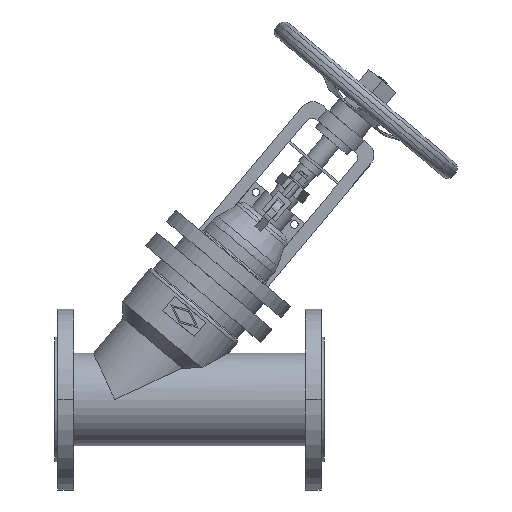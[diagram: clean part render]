
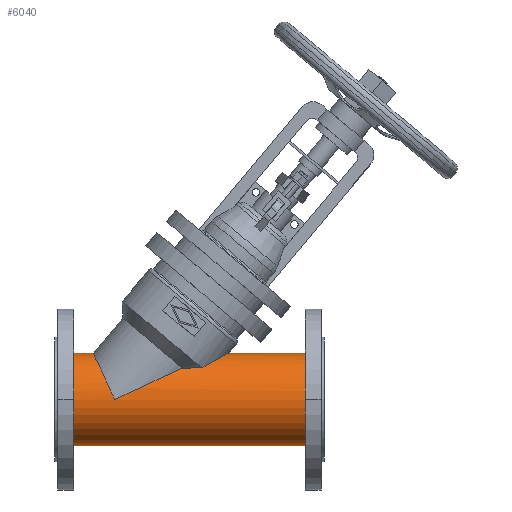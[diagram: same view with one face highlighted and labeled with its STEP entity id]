
A CAD part, top view. The second image highlights one B-rep face of the part: STEP entity #6040.
In plain terms, the highlighted cylindrical face has radius 60 mm (diameter 120 mm), a partial arc.
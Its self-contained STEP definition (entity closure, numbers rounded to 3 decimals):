
#2400=CARTESIAN_POINT('',(191.089,41.013,
43.794));
#2410=CARTESIAN_POINT('',(191.69,41.361,
43.469));
#2420=CARTESIAN_POINT('',(192.287,41.705,
43.138));
#2430=CARTESIAN_POINT('',(195.583,43.6,
41.277));
#2440=CARTESIAN_POINT('',(198.209,45.087,
39.651));
#2450=CARTESIAN_POINT('',(203.774,48.203,
35.829));
#2460=CARTESIAN_POINT('',(206.865,49.91,
33.446));
#2470=CARTESIAN_POINT('',(212.693,53.095,
28.117));
#2480=CARTESIAN_POINT('',(215.43,54.573,
25.171));
#2490=CARTESIAN_POINT('',(220.123,57.092,
18.769));
#2500=CARTESIAN_POINT('',(222.08,58.134,
15.313));
#2510=CARTESIAN_POINT('',(224.817,59.587,
7.962));
#2520=CARTESIAN_POINT('',(225.599,60.,4.07));
#2530=CARTESIAN_POINT('',(225.599,60.,-4.07));
#2540=CARTESIAN_POINT('',(224.817,59.587,
-7.962));
#2550=CARTESIAN_POINT('',(222.08,58.134,
-15.313));
#2560=CARTESIAN_POINT('',(220.123,57.092,
-18.769));
#2570=CARTESIAN_POINT('',(215.43,54.573,
-25.171));
#2580=CARTESIAN_POINT('',(212.693,53.095,
-28.117));
#2590=CARTESIAN_POINT('',(206.865,49.91,
-33.446));
#2600=CARTESIAN_POINT('',(203.774,48.203,
-35.829));
#2610=CARTESIAN_POINT('',(198.209,45.087,
-39.651));
#2620=CARTESIAN_POINT('',(195.583,43.6,
-41.277));
#2630=CARTESIAN_POINT('',(192.287,41.705,
-43.138));
#2640=CARTESIAN_POINT('',(191.69,41.361,
-43.469));
#2650=CARTESIAN_POINT('',(191.089,41.013,
-43.794));
#2660=B_SPLINE_CURVE_WITH_KNOTS('',3,(#2400,#2410,#2420,#2430,#2440,
#2450,#2460,#2470,#2480,#2490,#2500,#2510,#2520,#2530,#2540,#2550,#2560,
#2570,#2580,#2590,#2600,#2610,#2620,#2630,#2640,#2650),.UNSPECIFIED.,.F.
,.F.,(4,2,2,2,2,2,2,2,2,2,2,2,4),(257.184,259.401,
269.497,281.708,293.918,306.129,
318.34,330.551,342.761,354.972,
367.183,377.279,379.496),.UNSPECIFIED.);
#2670=CARTESIAN_POINT('',(225.599,60.,
0.));
#2680=VERTEX_POINT('',#2670);
#3040=CARTESIAN_POINT('',(50.022,60.,
0.));
#3050=VERTEX_POINT('',#3040);
#3080=CARTESIAN_POINT('',(78.,0.,0.));
#3090=DIRECTION('',(0.906,0.423,0.));
#3100=DIRECTION('',(-0.423,0.906,
0.));
#3110=AXIS2_PLACEMENT_3D('',#3080,#3090,#3100);
#3120=ELLIPSE('',#3110,66.203,60.);
#5310=CARTESIAN_POINT('',(175.,0.,0.));
#5320=DIRECTION('',(1.,0.,0.));
#5330=DIRECTION('',(0.,1.,0.));
#5340=AXIS2_PLACEMENT_3D('',#5310,#5320,#5330);
#5350=CYLINDRICAL_SURFACE('',#5340,60.);
#5360=CARTESIAN_POINT('',(175.,-60.,0.));
#5370=DIRECTION('',(1.,0.,0.));
#5380=VECTOR('',#5370,1.);
#5390=LINE('',#5360,#5380);
#5400=CARTESIAN_POINT('',(24.43,-60.,0.));
#5410=VERTEX_POINT('',#5400);
#5420=CARTESIAN_POINT('',(325.57,-60.,0.));
#5430=VERTEX_POINT('',#5420);
#5440=EDGE_CURVE('',#5410,#5430,#5390,.T.);
#5450=ORIENTED_EDGE('',*,*,#5440,.T.);
#5460=CARTESIAN_POINT('',(24.43,0.,0.));
#5470=DIRECTION('',(-1.,0.,0.));
#5480=DIRECTION('',(0.,1.,0.));
#5490=AXIS2_PLACEMENT_3D('',#5460,#5470,#5480);
#5500=CIRCLE('',#5490,60.);
#5510=CARTESIAN_POINT('',(24.43,60.,0.));
#5520=VERTEX_POINT('',#5510);
#5530=EDGE_CURVE('',#5410,#5520,#5500,.T.);
#5540=ORIENTED_EDGE('',*,*,#5530,.F.);
#5550=CARTESIAN_POINT('',(175.,60.,0.));
#5560=DIRECTION('',(1.,0.,0.));
#5570=VECTOR('',#5560,1.);
#5580=LINE('',#5550,#5570);
#5590=EDGE_CURVE('',#5520,#3050,#5580,.T.);
#5600=ORIENTED_EDGE('',*,*,#5590,.F.);
#5610=CARTESIAN_POINT('',(78.,0.,60.));
#5620=VERTEX_POINT('',#5610);
#5630=EDGE_CURVE('',#3050,#5620,#3120,.T.);
#5640=ORIENTED_EDGE('',*,*,#5630,.F.);
#5650=CARTESIAN_POINT('',(78.,0.,0.));
#5660=DIRECTION('',(-0.423,0.906,
0.));
#5670=DIRECTION('',(0.906,0.423,
0.));
#5680=AXIS2_PLACEMENT_3D('',#5650,#5660,#5670);
#5690=ELLIPSE('',#5680,141.972,60.);
#5700=CARTESIAN_POINT('',(165.77,40.928,
43.874));
#5710=VERTEX_POINT('',#5700);
#5720=EDGE_CURVE('',#5620,#5710,#5690,.T.);
#5730=ORIENTED_EDGE('',*,*,#5720,.F.);
#5740=CARTESIAN_POINT('',(191.089,41.013,
43.794));
#5750=CARTESIAN_POINT('',(190.06,40.984,
43.821));
#5760=CARTESIAN_POINT('',(189.035,40.958,
43.846));
#5770=CARTESIAN_POINT('',(183.989,40.841,
43.954));
#5780=CARTESIAN_POINT('',(180.052,40.794,
43.999));
#5790=CARTESIAN_POINT('',(173.333,40.794,
43.999));
#5800=CARTESIAN_POINT('',(170.292,40.823,
43.972));
#5810=CARTESIAN_POINT('',(166.73,40.903,
43.897));
#5820=CARTESIAN_POINT('',(166.251,40.915,
43.886));
#5830=CARTESIAN_POINT('',(165.77,40.928,
43.874));
#5840=B_SPLINE_CURVE_WITH_KNOTS('',3,(#5740,#5750,#5760,#5770,#5780,
#5790,#5800,#5810,#5820,#5830),.UNSPECIFIED.,.F.,.F.,(4,2,2,2,4),(
30.911,33.758,45.01,53.917,
55.299),.UNSPECIFIED.);
#5850=CARTESIAN_POINT('',(191.089,41.013,
43.794));
#5860=VERTEX_POINT('',#5850);
#5870=EDGE_CURVE('',#5860,#5710,#5840,.T.);
#5880=ORIENTED_EDGE('',*,*,#5870,.T.);
#5890=EDGE_CURVE('',#5860,#2680,#2660,.T.);
#5900=ORIENTED_EDGE('',*,*,#5890,.F.);
#5910=CARTESIAN_POINT('',(325.57,60.,0.));
#5920=VERTEX_POINT('',#5910);
#5930=EDGE_CURVE('',#2680,#5920,#5580,.T.);
#5940=ORIENTED_EDGE('',*,*,#5930,.F.);
#5950=CARTESIAN_POINT('',(325.57,0.,0.));
#5960=DIRECTION('',(-1.,0.,0.));
#5970=DIRECTION('',(0.,1.,0.));
#5980=AXIS2_PLACEMENT_3D('',#5950,#5960,#5970);
#5990=CIRCLE('',#5980,60.);
#6000=EDGE_CURVE('',#5430,#5920,#5990,.T.);
#6010=ORIENTED_EDGE('',*,*,#6000,.T.);
#6020=EDGE_LOOP('',(#6010,#5940,#5900,#5880,#5730,#5640,#5600,#5540,
#5450));
#6030=FACE_OUTER_BOUND('',#6020,.T.);
#6040=ADVANCED_FACE('',(#6030),#5350,.T.);
